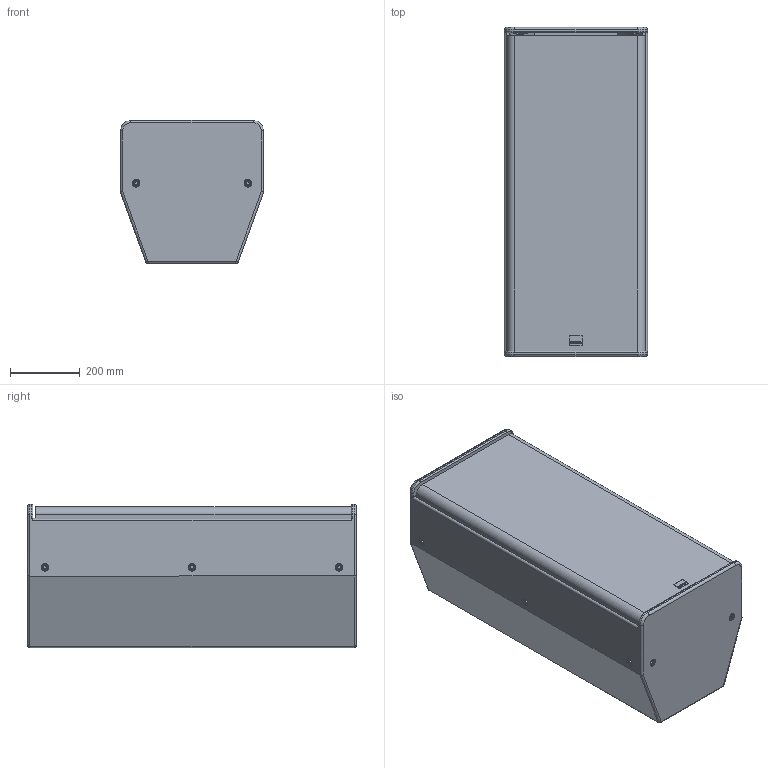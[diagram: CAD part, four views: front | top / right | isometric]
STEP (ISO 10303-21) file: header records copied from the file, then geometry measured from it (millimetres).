
FILE_DESCRIPTION (( 'STEP AP203' ), '1' );
FILE_NAME ('Seeburg_F22.STEP', '2012-10-15T12:49:14', ( 'Fabian' ), ( '' ), 'SwSTEP 2.0', 'SolidWorks 2009', '' );
FILE_SCHEMA (( 'CONFIG_CONTROL_DESIGN' ));
Length unit declared in the file: millimetre
Products named in the file (2): F22; Seeburg_F22
Assembly tree (1 placements, depth 2):
  Seeburg_F22
    F22
Bounding box: 410 x 942 x 410 mm (x, y, z)
Volume: 30180780.3 mm3; surface area: 3375557.3 mm2
Topology: 24 solids, 24 shells, 718 faces, 1793 edges, 1159 vertices
Faces by surface type: cylinder 366, plane 239, cone 96, torus 12, sphere 5
Entity records: 22447 total; most frequent: CARTESIAN_POINT 4140, DIRECTION 4069, ORIENTED_EDGE 3578, EDGE_CURVE 1789, AXIS2_PLACEMENT_3D 1574, VERTEX_POINT 1157, LINE 921, VECTOR 921
